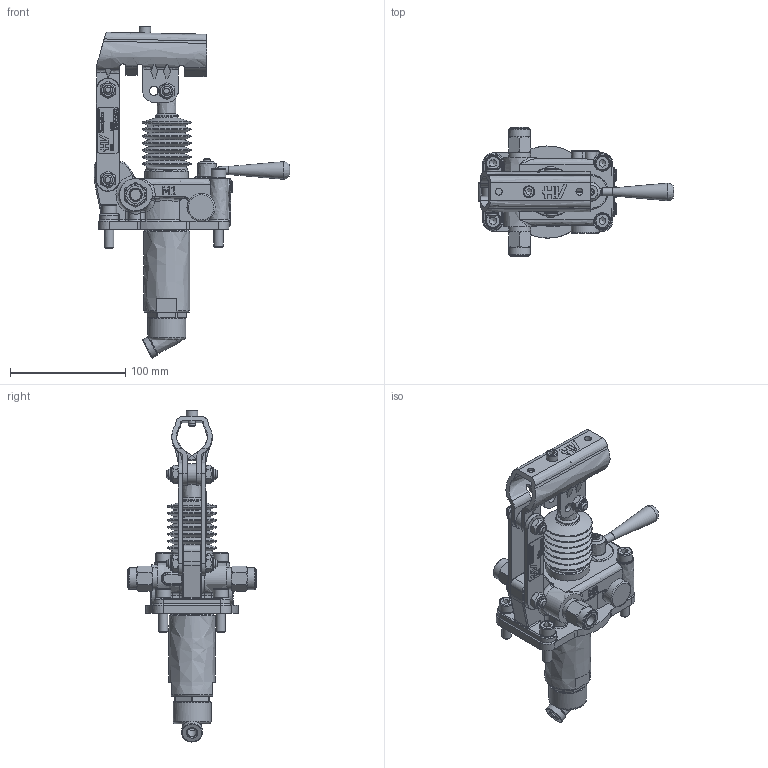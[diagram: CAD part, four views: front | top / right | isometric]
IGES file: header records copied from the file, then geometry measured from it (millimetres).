
Global section: file name: No Iges File Name specified; native system: Autodesk Inventor 2013; preprocessor: AutoDesk Inventor Iges Exporter R2013; author: christian.scardovi; date: 20240307.160438; units: millimetre
Bounding box: 170 x 112 x 288.31 mm (x, y, z)
Volume: 482319.5 mm3; surface area: 136668.8 mm2
Topology: 3 solids, 3 shells, 1682 faces, 4283 edges, 2718 vertices
Faces by surface type: bspline 1682
